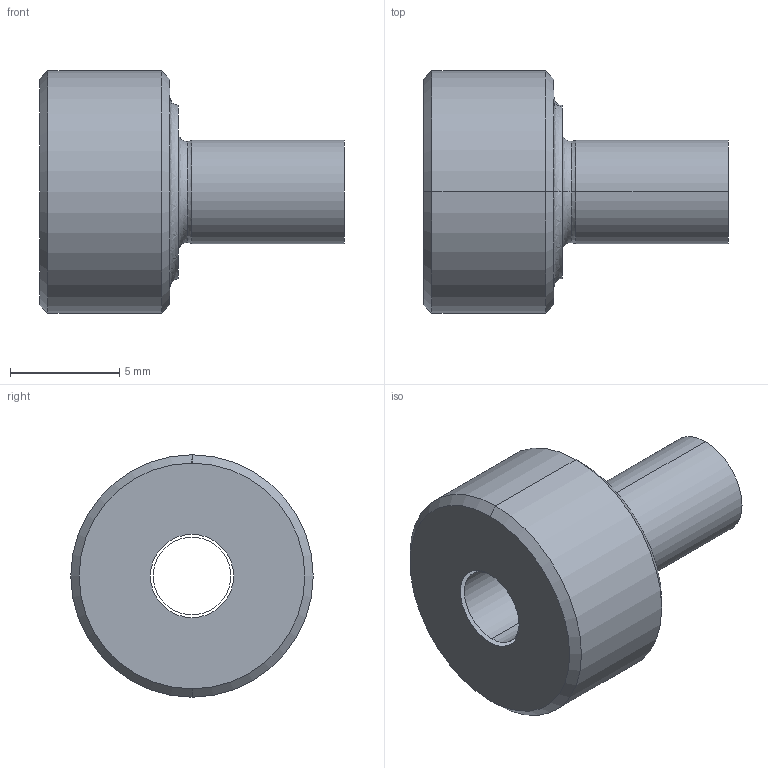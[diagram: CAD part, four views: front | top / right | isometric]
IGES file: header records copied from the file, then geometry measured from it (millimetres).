
Start section: 3D InterOp IGES (v. 2019 1.0.2), Spatial Corp. Copyright (c) 1999-2017.
Global section: file name: B1SS.igs; native system: Spatial Corp.; preprocessor: 3D InterOp GENERIC/IGES 3.0; author: Noname; organization: Noname; date: 20200930.105757; units: millimetre
Bounding box: 13.97 x 11.11 x 11.11 mm (x, y, z)
Surface area: 630.4 mm2 (no closed solid volume)
Topology: 0 solids, 0 shells, 24 faces, 96 edges, 96 vertices
Faces by surface type: revolution 20, extrusion 4
